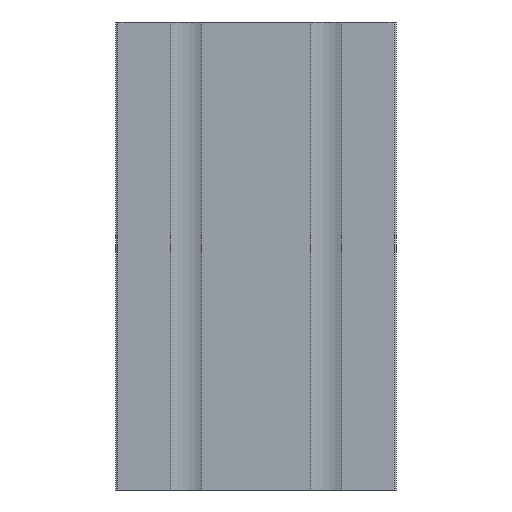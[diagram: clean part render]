
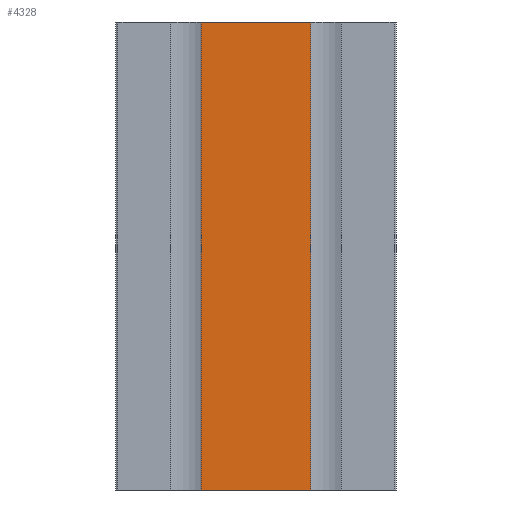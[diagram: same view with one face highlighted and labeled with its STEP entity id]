
A CAD part, front view. The second image highlights one B-rep face of the part: STEP entity #4328.
In plain terms, the highlighted planar face has unit normal (0, -1, 0).
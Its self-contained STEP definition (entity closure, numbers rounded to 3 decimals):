
#448=FACE_OUTER_BOUND('',#662,.T.);
#662=EDGE_LOOP('',(#3491,#3492,#3493,#3494));
#1128=LINE('',#7086,#1612);
#1129=LINE('',#7089,#1613);
#1130=LINE('',#7091,#1614);
#1131=LINE('',#7092,#1615);
#1612=VECTOR('',#5820,100.);
#1613=VECTOR('',#5823,23.5);
#1614=VECTOR('',#5824,23.5);
#1615=VECTOR('',#5825,100.);
#2049=VERTEX_POINT('',#7082);
#2050=VERTEX_POINT('',#7084);
#2051=VERTEX_POINT('',#7088);
#2052=VERTEX_POINT('',#7090);
#2664=EDGE_CURVE('',#2049,#2050,#1128,.T.);
#2665=EDGE_CURVE('',#2051,#2049,#1129,.T.);
#2666=EDGE_CURVE('',#2052,#2050,#1130,.T.);
#2667=EDGE_CURVE('',#2051,#2052,#1131,.T.);
#3491=ORIENTED_EDGE('',*,*,#2665,.T.);
#3492=ORIENTED_EDGE('',*,*,#2664,.T.);
#3493=ORIENTED_EDGE('',*,*,#2666,.F.);
#3494=ORIENTED_EDGE('',*,*,#2667,.F.);
#4118=PLANE('',#4688);
#4328=ADVANCED_FACE('',(#448),#4118,.T.);
#4688=AXIS2_PLACEMENT_3D('',#7087,#5821,#5822);
#5820=DIRECTION('',(0.,0.,1.));
#5821=DIRECTION('center_axis',(0.,-1.,0.));
#5822=DIRECTION('ref_axis',(1.,0.,0.));
#5823=DIRECTION('',(1.,0.,0.));
#5824=DIRECTION('',(1.,0.,0.));
#5825=DIRECTION('',(0.,0.,1.));
#7082=CARTESIAN_POINT('',(11.315,-14.536,0.));
#7084=CARTESIAN_POINT('',(11.315,-14.536,100.));
#7086=CARTESIAN_POINT('',(11.315,-14.536,0.));
#7087=CARTESIAN_POINT('Origin',(-12.185,-14.536,0.));
#7088=CARTESIAN_POINT('',(-12.185,-14.536,0.));
#7089=CARTESIAN_POINT('',(-12.185,-14.536,0.));
#7090=CARTESIAN_POINT('',(-12.185,-14.536,100.));
#7091=CARTESIAN_POINT('',(-12.185,-14.536,100.));
#7092=CARTESIAN_POINT('',(-12.185,-14.536,0.));
